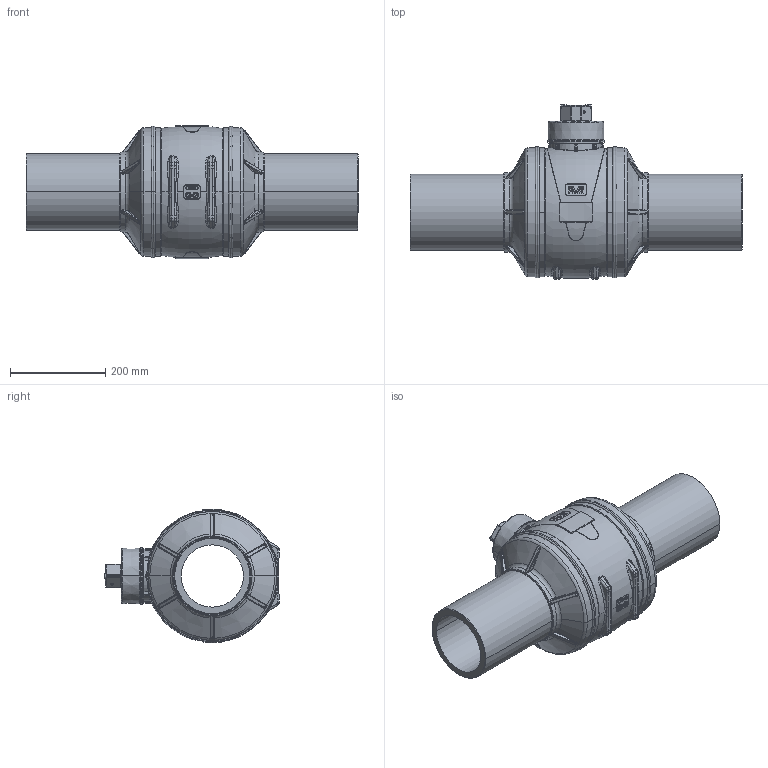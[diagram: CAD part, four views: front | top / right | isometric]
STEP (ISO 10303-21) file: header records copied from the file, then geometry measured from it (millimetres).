
FILE_DESCRIPTION (( 'STEP AP203' ), '1' );
FILE_NAME ('SOLID CERTUS VALVE PE BALL VALVE UNI DN150-OD160.STEP', '2019-07-26T07:11:17', ( 'Beheer' ), ( '' ), 'SwSTEP 2.0', 'SolidWorks 2012', '' );
FILE_SCHEMA (( 'CONFIG_CONTROL_DESIGN' ));
Length unit declared in the file: millimetre
Products named in the file (1): SOLID CERTUS VALVE PE BALL VALVE UNI DN150-OD160
Bounding box: 697.22 x 366.25 x 279.87 mm (x, y, z)
Volume: 14572369.7 mm3; surface area: 836483.5 mm2
Topology: 1 solids, 1 shells, 2331 faces, 5626 edges, 3233 vertices
Faces by surface type: bspline 746, cylinder 574, plane 482, torus 341, sphere 142, cone 46
Entity records: 96052 total; most frequent: CARTESIAN_POINT 47016, ORIENTED_EDGE 10956, DIRECTION 9324, EDGE_CURVE 5478, AXIS2_PLACEMENT_3D 3742, VERTEX_POINT 3225, EDGE_LOOP 2413, FACE_OUTER_BOUND 2331
